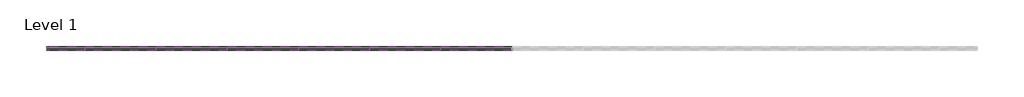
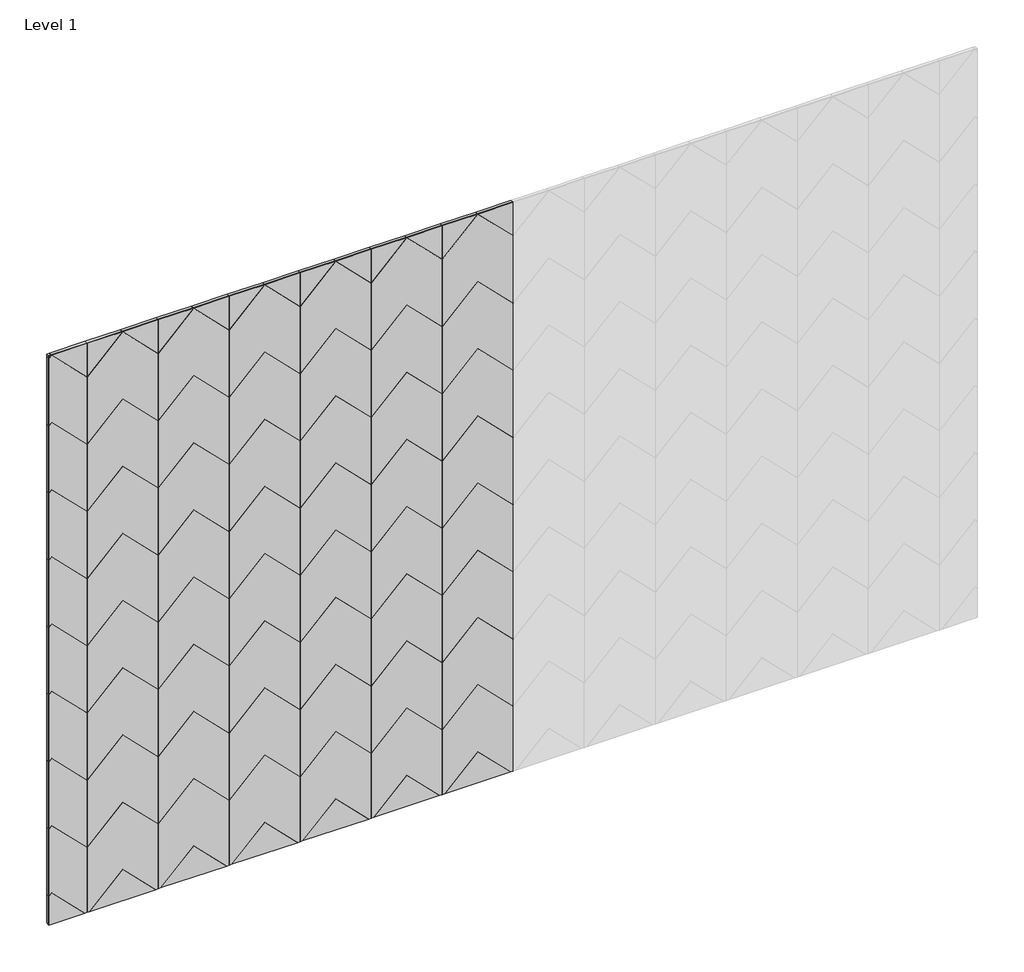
# One storey, part 1 of 2: 70 proxies.
"""IFC4 building model written with IfcOpenShell, lengths in millimetres."""

from ifc_helpers import new_model, si_unit, origin, place, context, project, spatial, transform, mapped, element, save
from components import dart_block_c7619bbd, dart_block_6891ff0b, dart_block_31c125ed, dart_block_84e837c1, dart_block_96afafd7, dart_block_226adf6a, dart_block_f4e7f8ae, dart_block_9a46b005

model = new_model("IFC4")

# Units and contexts
model_context = context("Model", 3, world=origin())
ifc_project = project(units=[si_unit("LENGTHUNIT", "METRE", prefix="MILLI")], contexts=[model_context])

# Site, building, storey
site = spatial("IfcSite", under=ifc_project)
building = spatial("IfcBuilding", under=site)
storey = spatial("IfcBuildingStorey", under=building, Name="Level 1", Elevation=0.0)

# Proxies
placement = place(None, origin())
dart_block_shape = dart_block_c7619bbd(model_context)
element("IfcBuildingElementProxy", 1, Name="FilzFelt_Dart_Block : Dart Block", ObjectType="FilzFelt_Dart_Block : Dart Block", at=placement, inside=storey, context=model_context, shape_type="MappedRepresentation", body=[
    mapped(dart_block_shape, transform((5246.9916002, -10315.1339335, 2001.5), x_axis=(1.0, 0.0, 0.0), y_axis=(0.0, 0.0, 1.0), z_axis=(0.0, -1.0, 0.0))),
])
element("IfcBuildingElementProxy", 2, Name="FilzFelt_Dart_Block : Dart Block", ObjectType="FilzFelt_Dart_Block : Dart Block", at=placement, inside=storey, context=model_context, shape_type="MappedRepresentation", body=[
    mapped(dart_block_shape, transform((5246.9916002, -10315.1339335, 1493.5), x_axis=(1.0, 0.0, 0.0), y_axis=(0.0, 0.0, 1.0), z_axis=(0.0, -1.0, 0.0))),
])
dart_block_2_shape = dart_block_6891ff0b(model_context)
element("IfcBuildingElementProxy", 3, Name="FilzFelt_Dart_Block : Dart Block", ObjectType="FilzFelt_Dart_Block : Dart Block", at=placement, inside=storey, context=model_context, shape_type="MappedRepresentation", body=[
    mapped(dart_block_2_shape, transform((5246.9916002, -10315.1339335, 3017.5), x_axis=(1.0, 0.0, 0.0), y_axis=(0.0, 0.0, 1.0), z_axis=(0.0, -1.0, 0.0))),
])
dart_block_3_shape = dart_block_31c125ed(model_context)
element("IfcBuildingElementProxy", 4, Name="FilzFelt_Dart_Block : Dart Block", ObjectType="FilzFelt_Dart_Block : Dart Block", at=placement, inside=storey, context=model_context, shape_type="MappedRepresentation", body=[
    mapped(dart_block_3_shape, transform((5500.9916002, -10315.1339335, 2509.5), x_axis=(1.0, 0.0, 0.0), y_axis=(0.0, 0.0, 1.0), z_axis=(0.0, -1.0, 0.0))),
])
element("IfcBuildingElementProxy", 5, Name="FilzFelt_Dart_Block : Dart Block", ObjectType="FilzFelt_Dart_Block : Dart Block", at=placement, inside=storey, context=model_context, shape_type="MappedRepresentation", body=[
    mapped(dart_block_3_shape, transform((5500.9916002, -10315.1339335, 1493.5), x_axis=(1.0, 0.0, 0.0), y_axis=(0.0, 0.0, 1.0), z_axis=(0.0, -1.0, 0.0))),
])
element("IfcBuildingElementProxy", 6, Name="FilzFelt_Dart_Block : Dart Block", ObjectType="FilzFelt_Dart_Block : Dart Block", at=placement, inside=storey, context=model_context, shape_type="MappedRepresentation", body=[
    mapped(dart_block_3_shape, transform((5754.9916002, -10315.1339335, 2763.5), x_axis=(1.0, 0.0, 0.0), y_axis=(0.0, 0.0, 1.0), z_axis=(0.0, -1.0, 0.0))),
])
element("IfcBuildingElementProxy", 7, Name="FilzFelt_Dart_Block : Dart Block", ObjectType="FilzFelt_Dart_Block : Dart Block", at=placement, inside=storey, context=model_context, shape_type="MappedRepresentation", body=[
    mapped(dart_block_3_shape, transform((5754.9916002, -10315.1339335, 2001.5), x_axis=(1.0, 0.0, 0.0), y_axis=(0.0, 0.0, 1.0), z_axis=(0.0, -1.0, 0.0))),
])
element("IfcBuildingElementProxy", 8, Name="FilzFelt_Dart_Block : Dart Block", ObjectType="FilzFelt_Dart_Block : Dart Block", at=placement, inside=storey, context=model_context, shape_type="MappedRepresentation", body=[
    mapped(dart_block_3_shape, transform((5754.9916002, -10315.1339335, 1239.5), x_axis=(1.0, 0.0, 0.0), y_axis=(0.0, 0.0, 1.0), z_axis=(0.0, -1.0, 0.0))),
])
element("IfcBuildingElementProxy", 9, Name="FilzFelt_Dart_Block : Dart Block", ObjectType="FilzFelt_Dart_Block : Dart Block", at=placement, inside=storey, context=model_context, shape_type="MappedRepresentation", body=[
    mapped(dart_block_3_shape, transform((6008.9916002, -10315.1339335, 2255.5), x_axis=(1.0, 0.0, 0.0), y_axis=(0.0, 0.0, 1.0), z_axis=(0.0, -1.0, 0.0))),
])
element("IfcBuildingElementProxy", 10, Name="FilzFelt_Dart_Block : Dart Block", ObjectType="FilzFelt_Dart_Block : Dart Block", at=placement, inside=storey, context=model_context, shape_type="MappedRepresentation", body=[
    mapped(dart_block_3_shape, transform((6008.9916002, -10315.1339335, 1747.5), x_axis=(1.0, 0.0, 0.0), y_axis=(0.0, 0.0, 1.0), z_axis=(0.0, -1.0, 0.0))),
])
element("IfcBuildingElementProxy", 11, Name="FilzFelt_Dart_Block : Dart Block", ObjectType="FilzFelt_Dart_Block : Dart Block", at=placement, inside=storey, context=model_context, shape_type="MappedRepresentation", body=[
    mapped(dart_block_3_shape, transform((6262.9916002, -10315.1339335, 2509.5), x_axis=(1.0, 0.0, 0.0), y_axis=(0.0, 0.0, 1.0), z_axis=(0.0, -1.0, 0.0))),
])
element("IfcBuildingElementProxy", 12, Name="FilzFelt_Dart_Block : Dart Block", ObjectType="FilzFelt_Dart_Block : Dart Block", at=placement, inside=storey, context=model_context, shape_type="MappedRepresentation", body=[
    mapped(dart_block_3_shape, transform((6262.9916002, -10315.1339335, 1747.5), x_axis=(1.0, 0.0, 0.0), y_axis=(0.0, 0.0, 1.0), z_axis=(0.0, -1.0, 0.0))),
])
element("IfcBuildingElementProxy", 13, Name="FilzFelt_Dart_Block : Dart Block", ObjectType="FilzFelt_Dart_Block : Dart Block", at=placement, inside=storey, context=model_context, shape_type="MappedRepresentation", body=[
    mapped(dart_block_3_shape, transform((6262.9916002, -10315.1339335, 1239.5), x_axis=(1.0, 0.0, 0.0), y_axis=(0.0, 0.0, 1.0), z_axis=(0.0, -1.0, 0.0))),
])
element("IfcBuildingElementProxy", 14, Name="FilzFelt_Dart_Block : Dart Block", ObjectType="FilzFelt_Dart_Block : Dart Block", at=placement, inside=storey, context=model_context, shape_type="MappedRepresentation", body=[
    mapped(dart_block_3_shape, transform((6516.9916002, -10315.1339335, 2763.5), x_axis=(1.0, 0.0, 0.0), y_axis=(0.0, 0.0, 1.0), z_axis=(0.0, -1.0, 0.0))),
])
element("IfcBuildingElementProxy", 15, Name="FilzFelt_Dart_Block : Dart Block", ObjectType="FilzFelt_Dart_Block : Dart Block", at=placement, inside=storey, context=model_context, shape_type="MappedRepresentation", body=[
    mapped(dart_block_3_shape, transform((6516.9916002, -10315.1339335, 2255.5), x_axis=(1.0, 0.0, 0.0), y_axis=(0.0, 0.0, 1.0), z_axis=(0.0, -1.0, 0.0))),
])
element("IfcBuildingElementProxy", 16, Name="FilzFelt_Dart_Block : Dart Block", ObjectType="FilzFelt_Dart_Block : Dart Block", at=placement, inside=storey, context=model_context, shape_type="MappedRepresentation", body=[
    mapped(dart_block_3_shape, transform((6516.9916002, -10315.1339335, 1493.5), x_axis=(1.0, 0.0, 0.0), y_axis=(0.0, 0.0, 1.0), z_axis=(0.0, -1.0, 0.0))),
])
element("IfcBuildingElementProxy", 17, Name="FilzFelt_Dart_Block : Dart Block", ObjectType="FilzFelt_Dart_Block : Dart Block", at=placement, inside=storey, context=model_context, shape_type="MappedRepresentation", body=[
    mapped(dart_block_3_shape, transform((6770.9916002, -10315.1339335, 2001.5), x_axis=(1.0, 0.0, 0.0), y_axis=(0.0, 0.0, 1.0), z_axis=(0.0, -1.0, 0.0))),
])
element("IfcBuildingElementProxy", 18, Name="FilzFelt_Dart_Block : Dart Block", ObjectType="FilzFelt_Dart_Block : Dart Block", at=placement, inside=storey, context=model_context, shape_type="MappedRepresentation", body=[
    mapped(dart_block_3_shape, transform((6770.9916002, -10315.1339335, 1239.5), x_axis=(1.0, 0.0, 0.0), y_axis=(0.0, 0.0, 1.0), z_axis=(0.0, -1.0, 0.0))),
])
dart_block_4_shape = dart_block_84e837c1(model_context)
element("IfcBuildingElementProxy", 19, Name="FilzFelt_Dart_Block : Dart Block", ObjectType="FilzFelt_Dart_Block : Dart Block", at=placement, inside=storey, context=model_context, shape_type="MappedRepresentation", body=[
    mapped(dart_block_4_shape, transform((6770.9916002, -10315.1339335, 3017.5), x_axis=(1.0, 0.0, 0.0), y_axis=(0.0, 0.0, 1.0), z_axis=(0.0, -1.0, 0.0))),
])
dart_block_5_shape = dart_block_96afafd7(model_context)
element("IfcBuildingElementProxy", 20, Name="FilzFelt_Dart_Block : Dart Block", ObjectType="FilzFelt_Dart_Block : Dart Block", at=placement, inside=storey, context=model_context, shape_type="MappedRepresentation", body=[
    mapped(dart_block_5_shape, transform((6008.9916002, -10315.1339335, 985.5), x_axis=(1.0, 0.0, 0.0), y_axis=(0.0, 0.0, 1.0), z_axis=(0.0, -1.0, 0.0))),
])
element("IfcBuildingElementProxy", 21, Name="FilzFelt_Dart_Block : Dart Block", ObjectType="FilzFelt_Dart_Block : Dart Block", at=placement, inside=storey, context=model_context, shape_type="MappedRepresentation", body=[
    mapped(dart_block_5_shape, transform((5500.9916002, -10315.1339335, 985.5), x_axis=(1.0, 0.0, 0.0), y_axis=(0.0, 0.0, 1.0), z_axis=(0.0, -1.0, 0.0))),
])
dart_block_6_shape = dart_block_226adf6a(model_context)
element("IfcBuildingElementProxy", 22, Name="FilzFelt_Dart_Block : Dart Block", ObjectType="FilzFelt_Dart_Block : Dart Block", at=placement, inside=storey, context=model_context, shape_type="MappedRepresentation", body=[
    mapped(dart_block_6_shape, transform((6770.9916002, -10315.1339335, 731.5), x_axis=(1.0, 0.0, 0.0), y_axis=(0.0, 0.0, 1.0), z_axis=(0.0, -1.0, 0.0))),
])
element("IfcBuildingElementProxy", 23, Name="FilzFelt_Dart_Block : Dart Block", ObjectType="FilzFelt_Dart_Block : Dart Block", at=placement, inside=storey, context=model_context, shape_type="MappedRepresentation", body=[
    mapped(dart_block_6_shape, transform((6516.9916002, -10315.1339335, 731.5), x_axis=(1.0, 0.0, 0.0), y_axis=(0.0, 0.0, 1.0), z_axis=(0.0, -1.0, 0.0))),
])
element("IfcBuildingElementProxy", 24, Name="FilzFelt_Dart_Block : Dart Block", ObjectType="FilzFelt_Dart_Block : Dart Block", at=placement, inside=storey, context=model_context, shape_type="MappedRepresentation", body=[
    mapped(dart_block_6_shape, transform((5754.9916002, -10315.1339335, 731.5), x_axis=(1.0, 0.0, 0.0), y_axis=(0.0, 0.0, 1.0), z_axis=(0.0, -1.0, 0.0))),
])
dart_block_7_shape = dart_block_f4e7f8ae(model_context)
element("IfcBuildingElementProxy", 25, Name="FilzFelt_Dart_Block : Dart Block", ObjectType="FilzFelt_Dart_Block : Dart Block", at=placement, inside=storey, context=model_context, shape_type="MappedRepresentation", body=[
    mapped(dart_block_7_shape, transform((5246.9916002, -10315.1339335, 731.5), x_axis=(1.0, 0.0, 0.0), y_axis=(0.0, 0.0, 1.0), z_axis=(0.0, -1.0, 0.0))),
])
element("IfcBuildingElementProxy", 26, Name="FilzFelt_Dart_Block : Dart Block", ObjectType="FilzFelt_Dart_Block : Dart Block", at=placement, inside=storey, context=model_context, shape_type="MappedRepresentation", body=[
    mapped(dart_block_shape, transform((5246.9916002, -10315.1339335, 2763.5), x_axis=(1.0, 0.0, 0.0), y_axis=(0.0, 0.0, 1.0), z_axis=(0.0, -1.0, 0.0))),
])
element("IfcBuildingElementProxy", 27, Name="FilzFelt_Dart_Block : Dart Block", ObjectType="FilzFelt_Dart_Block : Dart Block", at=placement, inside=storey, context=model_context, shape_type="MappedRepresentation", body=[
    mapped(dart_block_shape, transform((5246.9916002, -10315.1339335, 2255.5), x_axis=(1.0, 0.0, 0.0), y_axis=(0.0, 0.0, 1.0), z_axis=(0.0, -1.0, 0.0))),
])
element("IfcBuildingElementProxy", 28, Name="FilzFelt_Dart_Block : Dart Block", ObjectType="FilzFelt_Dart_Block : Dart Block", at=placement, inside=storey, context=model_context, shape_type="MappedRepresentation", body=[
    mapped(dart_block_3_shape, transform((5500.9916002, -10315.1339335, 2255.5), x_axis=(1.0, 0.0, 0.0), y_axis=(0.0, 0.0, 1.0), z_axis=(0.0, -1.0, 0.0))),
])
element("IfcBuildingElementProxy", 29, Name="FilzFelt_Dart_Block : Dart Block", ObjectType="FilzFelt_Dart_Block : Dart Block", at=placement, inside=storey, context=model_context, shape_type="MappedRepresentation", body=[
    mapped(dart_block_3_shape, transform((5500.9916002, -10315.1339335, 1747.5), x_axis=(1.0, 0.0, 0.0), y_axis=(0.0, 0.0, 1.0), z_axis=(0.0, -1.0, 0.0))),
])
element("IfcBuildingElementProxy", 30, Name="FilzFelt_Dart_Block : Dart Block", ObjectType="FilzFelt_Dart_Block : Dart Block", at=placement, inside=storey, context=model_context, shape_type="MappedRepresentation", body=[
    mapped(dart_block_3_shape, transform((5500.9916002, -10315.1339335, 1239.5), x_axis=(1.0, 0.0, 0.0), y_axis=(0.0, 0.0, 1.0), z_axis=(0.0, -1.0, 0.0))),
])
element("IfcBuildingElementProxy", 31, Name="FilzFelt_Dart_Block : Dart Block", ObjectType="FilzFelt_Dart_Block : Dart Block", at=placement, inside=storey, context=model_context, shape_type="MappedRepresentation", body=[
    mapped(dart_block_3_shape, transform((5754.9916002, -10315.1339335, 2509.5), x_axis=(1.0, 0.0, 0.0), y_axis=(0.0, 0.0, 1.0), z_axis=(0.0, -1.0, 0.0))),
])
element("IfcBuildingElementProxy", 32, Name="FilzFelt_Dart_Block : Dart Block", ObjectType="FilzFelt_Dart_Block : Dart Block", at=placement, inside=storey, context=model_context, shape_type="MappedRepresentation", body=[
    mapped(dart_block_3_shape, transform((5754.9916002, -10315.1339335, 1493.5), x_axis=(1.0, 0.0, 0.0), y_axis=(0.0, 0.0, 1.0), z_axis=(0.0, -1.0, 0.0))),
])
element("IfcBuildingElementProxy", 33, Name="FilzFelt_Dart_Block : Dart Block", ObjectType="FilzFelt_Dart_Block : Dart Block", at=placement, inside=storey, context=model_context, shape_type="MappedRepresentation", body=[
    mapped(dart_block_3_shape, transform((6008.9916002, -10315.1339335, 2763.5), x_axis=(1.0, 0.0, 0.0), y_axis=(0.0, 0.0, 1.0), z_axis=(0.0, -1.0, 0.0))),
])
element("IfcBuildingElementProxy", 34, Name="FilzFelt_Dart_Block : Dart Block", ObjectType="FilzFelt_Dart_Block : Dart Block", at=placement, inside=storey, context=model_context, shape_type="MappedRepresentation", body=[
    mapped(dart_block_3_shape, transform((6008.9916002, -10315.1339335, 2001.5), x_axis=(1.0, 0.0, 0.0), y_axis=(0.0, 0.0, 1.0), z_axis=(0.0, -1.0, 0.0))),
])
element("IfcBuildingElementProxy", 35, Name="FilzFelt_Dart_Block : Dart Block", ObjectType="FilzFelt_Dart_Block : Dart Block", at=placement, inside=storey, context=model_context, shape_type="MappedRepresentation", body=[
    mapped(dart_block_3_shape, transform((6008.9916002, -10315.1339335, 1239.5), x_axis=(1.0, 0.0, 0.0), y_axis=(0.0, 0.0, 1.0), z_axis=(0.0, -1.0, 0.0))),
])
element("IfcBuildingElementProxy", 36, Name="FilzFelt_Dart_Block : Dart Block", ObjectType="FilzFelt_Dart_Block : Dart Block", at=placement, inside=storey, context=model_context, shape_type="MappedRepresentation", body=[
    mapped(dart_block_3_shape, transform((6262.9916002, -10315.1339335, 2255.5), x_axis=(1.0, 0.0, 0.0), y_axis=(0.0, 0.0, 1.0), z_axis=(0.0, -1.0, 0.0))),
])
element("IfcBuildingElementProxy", 37, Name="FilzFelt_Dart_Block : Dart Block", ObjectType="FilzFelt_Dart_Block : Dart Block", at=placement, inside=storey, context=model_context, shape_type="MappedRepresentation", body=[
    mapped(dart_block_3_shape, transform((6262.9916002, -10315.1339335, 1493.5), x_axis=(1.0, 0.0, 0.0), y_axis=(0.0, 0.0, 1.0), z_axis=(0.0, -1.0, 0.0))),
])
element("IfcBuildingElementProxy", 38, Name="FilzFelt_Dart_Block : Dart Block", ObjectType="FilzFelt_Dart_Block : Dart Block", at=placement, inside=storey, context=model_context, shape_type="MappedRepresentation", body=[
    mapped(dart_block_3_shape, transform((6516.9916002, -10315.1339335, 2509.5), x_axis=(1.0, 0.0, 0.0), y_axis=(0.0, 0.0, 1.0), z_axis=(0.0, -1.0, 0.0))),
])
element("IfcBuildingElementProxy", 39, Name="FilzFelt_Dart_Block : Dart Block", ObjectType="FilzFelt_Dart_Block : Dart Block", at=placement, inside=storey, context=model_context, shape_type="MappedRepresentation", body=[
    mapped(dart_block_3_shape, transform((6516.9916002, -10315.1339335, 2001.5), x_axis=(1.0, 0.0, 0.0), y_axis=(0.0, 0.0, 1.0), z_axis=(0.0, -1.0, 0.0))),
])
element("IfcBuildingElementProxy", 40, Name="FilzFelt_Dart_Block : Dart Block", ObjectType="FilzFelt_Dart_Block : Dart Block", at=placement, inside=storey, context=model_context, shape_type="MappedRepresentation", body=[
    mapped(dart_block_3_shape, transform((6516.9916002, -10315.1339335, 1239.5), x_axis=(1.0, 0.0, 0.0), y_axis=(0.0, 0.0, 1.0), z_axis=(0.0, -1.0, 0.0))),
])
element("IfcBuildingElementProxy", 41, Name="FilzFelt_Dart_Block : Dart Block", ObjectType="FilzFelt_Dart_Block : Dart Block", at=placement, inside=storey, context=model_context, shape_type="MappedRepresentation", body=[
    mapped(dart_block_3_shape, transform((6770.9916002, -10315.1339335, 2509.5), x_axis=(1.0, 0.0, 0.0), y_axis=(0.0, 0.0, 1.0), z_axis=(0.0, -1.0, 0.0))),
])
element("IfcBuildingElementProxy", 42, Name="FilzFelt_Dart_Block : Dart Block", ObjectType="FilzFelt_Dart_Block : Dart Block", at=placement, inside=storey, context=model_context, shape_type="MappedRepresentation", body=[
    mapped(dart_block_3_shape, transform((6770.9916002, -10315.1339335, 1747.5), x_axis=(1.0, 0.0, 0.0), y_axis=(0.0, 0.0, 1.0), z_axis=(0.0, -1.0, 0.0))),
])
element("IfcBuildingElementProxy", 43, Name="FilzFelt_Dart_Block : Dart Block", ObjectType="FilzFelt_Dart_Block : Dart Block", at=placement, inside=storey, context=model_context, shape_type="MappedRepresentation", body=[
    mapped(dart_block_4_shape, transform((5500.9916002, -10315.1339335, 3017.5), x_axis=(1.0, 0.0, 0.0), y_axis=(0.0, 0.0, 1.0), z_axis=(0.0, -1.0, 0.0))),
])
element("IfcBuildingElementProxy", 44, Name="FilzFelt_Dart_Block : Dart Block", ObjectType="FilzFelt_Dart_Block : Dart Block", at=placement, inside=storey, context=model_context, shape_type="MappedRepresentation", body=[
    mapped(dart_block_4_shape, transform((5754.9916002, -10315.1339335, 3017.5), x_axis=(1.0, 0.0, 0.0), y_axis=(0.0, 0.0, 1.0), z_axis=(0.0, -1.0, 0.0))),
])
element("IfcBuildingElementProxy", 45, Name="FilzFelt_Dart_Block : Dart Block", ObjectType="FilzFelt_Dart_Block : Dart Block", at=placement, inside=storey, context=model_context, shape_type="MappedRepresentation", body=[
    mapped(dart_block_4_shape, transform((6262.9916002, -10315.1339335, 3017.5), x_axis=(1.0, 0.0, 0.0), y_axis=(0.0, 0.0, 1.0), z_axis=(0.0, -1.0, 0.0))),
])
element("IfcBuildingElementProxy", 46, Name="FilzFelt_Dart_Block : Dart Block", ObjectType="FilzFelt_Dart_Block : Dart Block", at=placement, inside=storey, context=model_context, shape_type="MappedRepresentation", body=[
    mapped(dart_block_4_shape, transform((6516.9916002, -10315.1339335, 3017.5), x_axis=(1.0, 0.0, 0.0), y_axis=(0.0, 0.0, 1.0), z_axis=(0.0, -1.0, 0.0))),
])
element("IfcBuildingElementProxy", 47, Name="FilzFelt_Dart_Block : Dart Block", ObjectType="FilzFelt_Dart_Block : Dart Block", at=placement, inside=storey, context=model_context, shape_type="MappedRepresentation", body=[
    mapped(dart_block_5_shape, transform((6770.9916002, -10315.1339335, 985.5), x_axis=(1.0, 0.0, 0.0), y_axis=(0.0, 0.0, 1.0), z_axis=(0.0, -1.0, 0.0))),
])
element("IfcBuildingElementProxy", 48, Name="FilzFelt_Dart_Block : Dart Block", ObjectType="FilzFelt_Dart_Block : Dart Block", at=placement, inside=storey, context=model_context, shape_type="MappedRepresentation", body=[
    mapped(dart_block_5_shape, transform((6262.9916002, -10315.1339335, 985.5), x_axis=(1.0, 0.0, 0.0), y_axis=(0.0, 0.0, 1.0), z_axis=(0.0, -1.0, 0.0))),
])
element("IfcBuildingElementProxy", 49, Name="FilzFelt_Dart_Block : Dart Block", ObjectType="FilzFelt_Dart_Block : Dart Block", at=placement, inside=storey, context=model_context, shape_type="MappedRepresentation", body=[
    mapped(dart_block_6_shape, transform((6008.9916002, -10315.1339335, 731.5), x_axis=(1.0, 0.0, 0.0), y_axis=(0.0, 0.0, 1.0), z_axis=(0.0, -1.0, 0.0))),
])
element("IfcBuildingElementProxy", 50, Name="FilzFelt_Dart_Block : Dart Block", ObjectType="FilzFelt_Dart_Block : Dart Block", at=placement, inside=storey, context=model_context, shape_type="MappedRepresentation", body=[
    mapped(dart_block_6_shape, transform((5500.9916002, -10315.1339335, 731.5), x_axis=(1.0, 0.0, 0.0), y_axis=(0.0, 0.0, 1.0), z_axis=(0.0, -1.0, 0.0))),
])
dart_block_8_shape = dart_block_9a46b005(model_context)
element("IfcBuildingElementProxy", 51, Name="FilzFelt_Dart_Block : Dart Block", ObjectType="FilzFelt_Dart_Block : Dart Block", at=placement, inside=storey, context=model_context, shape_type="MappedRepresentation", body=[
    mapped(dart_block_8_shape, transform((5246.9916002, -10315.1339335, 985.5), x_axis=(1.0, 0.0, 0.0), y_axis=(0.0, 0.0, 1.0), z_axis=(0.0, -1.0, 0.0))),
])
element("IfcBuildingElementProxy", 52, Name="FilzFelt_Dart_Block : Dart Block", ObjectType="FilzFelt_Dart_Block : Dart Block", at=placement, inside=storey, context=model_context, shape_type="MappedRepresentation", body=[
    mapped(dart_block_shape, transform((5246.9916002, -10315.1339335, 2509.5), x_axis=(1.0, 0.0, 0.0), y_axis=(0.0, 0.0, 1.0), z_axis=(0.0, -1.0, 0.0))),
])
element("IfcBuildingElementProxy", 53, Name="FilzFelt_Dart_Block : Dart Block", ObjectType="FilzFelt_Dart_Block : Dart Block", at=placement, inside=storey, context=model_context, shape_type="MappedRepresentation", body=[
    mapped(dart_block_shape, transform((5246.9916002, -10315.1339335, 1747.5), x_axis=(1.0, 0.0, 0.0), y_axis=(0.0, 0.0, 1.0), z_axis=(0.0, -1.0, 0.0))),
])
element("IfcBuildingElementProxy", 54, Name="FilzFelt_Dart_Block : Dart Block", ObjectType="FilzFelt_Dart_Block : Dart Block", at=placement, inside=storey, context=model_context, shape_type="MappedRepresentation", body=[
    mapped(dart_block_shape, transform((5246.9916002, -10315.1339335, 1239.5), x_axis=(1.0, 0.0, 0.0), y_axis=(0.0, 0.0, 1.0), z_axis=(0.0, -1.0, 0.0))),
])
element("IfcBuildingElementProxy", 55, Name="FilzFelt_Dart_Block : Dart Block", ObjectType="FilzFelt_Dart_Block : Dart Block", at=placement, inside=storey, context=model_context, shape_type="MappedRepresentation", body=[
    mapped(dart_block_3_shape, transform((5500.9916002, -10315.1339335, 2763.5), x_axis=(1.0, 0.0, 0.0), y_axis=(0.0, 0.0, 1.0), z_axis=(0.0, -1.0, 0.0))),
])
element("IfcBuildingElementProxy", 56, Name="FilzFelt_Dart_Block : Dart Block", ObjectType="FilzFelt_Dart_Block : Dart Block", at=placement, inside=storey, context=model_context, shape_type="MappedRepresentation", body=[
    mapped(dart_block_3_shape, transform((5500.9916002, -10315.1339335, 2001.5), x_axis=(1.0, 0.0, 0.0), y_axis=(0.0, 0.0, 1.0), z_axis=(0.0, -1.0, 0.0))),
])
element("IfcBuildingElementProxy", 57, Name="FilzFelt_Dart_Block : Dart Block", ObjectType="FilzFelt_Dart_Block : Dart Block", at=placement, inside=storey, context=model_context, shape_type="MappedRepresentation", body=[
    mapped(dart_block_3_shape, transform((5754.9916002, -10315.1339335, 2255.5), x_axis=(1.0, 0.0, 0.0), y_axis=(0.0, 0.0, 1.0), z_axis=(0.0, -1.0, 0.0))),
])
element("IfcBuildingElementProxy", 58, Name="FilzFelt_Dart_Block : Dart Block", ObjectType="FilzFelt_Dart_Block : Dart Block", at=placement, inside=storey, context=model_context, shape_type="MappedRepresentation", body=[
    mapped(dart_block_3_shape, transform((5754.9916002, -10315.1339335, 1747.5), x_axis=(1.0, 0.0, 0.0), y_axis=(0.0, 0.0, 1.0), z_axis=(0.0, -1.0, 0.0))),
])
element("IfcBuildingElementProxy", 59, Name="FilzFelt_Dart_Block : Dart Block", ObjectType="FilzFelt_Dart_Block : Dart Block", at=placement, inside=storey, context=model_context, shape_type="MappedRepresentation", body=[
    mapped(dart_block_3_shape, transform((6008.9916002, -10315.1339335, 2509.5), x_axis=(1.0, 0.0, 0.0), y_axis=(0.0, 0.0, 1.0), z_axis=(0.0, -1.0, 0.0))),
])
element("IfcBuildingElementProxy", 60, Name="FilzFelt_Dart_Block : Dart Block", ObjectType="FilzFelt_Dart_Block : Dart Block", at=placement, inside=storey, context=model_context, shape_type="MappedRepresentation", body=[
    mapped(dart_block_3_shape, transform((6008.9916002, -10315.1339335, 1493.5), x_axis=(1.0, 0.0, 0.0), y_axis=(0.0, 0.0, 1.0), z_axis=(0.0, -1.0, 0.0))),
])
element("IfcBuildingElementProxy", 61, Name="FilzFelt_Dart_Block : Dart Block", ObjectType="FilzFelt_Dart_Block : Dart Block", at=placement, inside=storey, context=model_context, shape_type="MappedRepresentation", body=[
    mapped(dart_block_3_shape, transform((6262.9916002, -10315.1339335, 2763.5), x_axis=(1.0, 0.0, 0.0), y_axis=(0.0, 0.0, 1.0), z_axis=(0.0, -1.0, 0.0))),
])
element("IfcBuildingElementProxy", 62, Name="FilzFelt_Dart_Block : Dart Block", ObjectType="FilzFelt_Dart_Block : Dart Block", at=placement, inside=storey, context=model_context, shape_type="MappedRepresentation", body=[
    mapped(dart_block_3_shape, transform((6262.9916002, -10315.1339335, 2001.5), x_axis=(1.0, 0.0, 0.0), y_axis=(0.0, 0.0, 1.0), z_axis=(0.0, -1.0, 0.0))),
])
element("IfcBuildingElementProxy", 63, Name="FilzFelt_Dart_Block : Dart Block", ObjectType="FilzFelt_Dart_Block : Dart Block", at=placement, inside=storey, context=model_context, shape_type="MappedRepresentation", body=[
    mapped(dart_block_3_shape, transform((6516.9916002, -10315.1339335, 1747.5), x_axis=(1.0, 0.0, 0.0), y_axis=(0.0, 0.0, 1.0), z_axis=(0.0, -1.0, 0.0))),
])
element("IfcBuildingElementProxy", 64, Name="FilzFelt_Dart_Block : Dart Block", ObjectType="FilzFelt_Dart_Block : Dart Block", at=placement, inside=storey, context=model_context, shape_type="MappedRepresentation", body=[
    mapped(dart_block_3_shape, transform((6770.9916002, -10315.1339335, 2763.5), x_axis=(1.0, 0.0, 0.0), y_axis=(0.0, 0.0, 1.0), z_axis=(0.0, -1.0, 0.0))),
])
element("IfcBuildingElementProxy", 65, Name="FilzFelt_Dart_Block : Dart Block", ObjectType="FilzFelt_Dart_Block : Dart Block", at=placement, inside=storey, context=model_context, shape_type="MappedRepresentation", body=[
    mapped(dart_block_3_shape, transform((6770.9916002, -10315.1339335, 2255.5), x_axis=(1.0, 0.0, 0.0), y_axis=(0.0, 0.0, 1.0), z_axis=(0.0, -1.0, 0.0))),
])
element("IfcBuildingElementProxy", 66, Name="FilzFelt_Dart_Block : Dart Block", ObjectType="FilzFelt_Dart_Block : Dart Block", at=placement, inside=storey, context=model_context, shape_type="MappedRepresentation", body=[
    mapped(dart_block_3_shape, transform((6770.9916002, -10315.1339335, 1493.5), x_axis=(1.0, 0.0, 0.0), y_axis=(0.0, 0.0, 1.0), z_axis=(0.0, -1.0, 0.0))),
])
element("IfcBuildingElementProxy", 67, Name="FilzFelt_Dart_Block : Dart Block", ObjectType="FilzFelt_Dart_Block : Dart Block", at=placement, inside=storey, context=model_context, shape_type="MappedRepresentation", body=[
    mapped(dart_block_4_shape, transform((6008.9916002, -10315.1339335, 3017.5), x_axis=(1.0, 0.0, 0.0), y_axis=(0.0, 0.0, 1.0), z_axis=(0.0, -1.0, 0.0))),
])
element("IfcBuildingElementProxy", 68, Name="FilzFelt_Dart_Block : Dart Block", ObjectType="FilzFelt_Dart_Block : Dart Block", at=placement, inside=storey, context=model_context, shape_type="MappedRepresentation", body=[
    mapped(dart_block_5_shape, transform((6516.9916002, -10315.1339335, 985.5), x_axis=(1.0, 0.0, 0.0), y_axis=(0.0, 0.0, 1.0), z_axis=(0.0, -1.0, 0.0))),
])
element("IfcBuildingElementProxy", 69, Name="FilzFelt_Dart_Block : Dart Block", ObjectType="FilzFelt_Dart_Block : Dart Block", at=placement, inside=storey, context=model_context, shape_type="MappedRepresentation", body=[
    mapped(dart_block_5_shape, transform((5754.9916002, -10315.1339335, 985.5), x_axis=(1.0, 0.0, 0.0), y_axis=(0.0, 0.0, 1.0), z_axis=(0.0, -1.0, 0.0))),
])
element("IfcBuildingElementProxy", 70, Name="FilzFelt_Dart_Block : Dart Block", ObjectType="FilzFelt_Dart_Block : Dart Block", at=placement, inside=storey, context=model_context, shape_type="MappedRepresentation", body=[
    mapped(dart_block_6_shape, transform((6262.9916002, -10315.1339335, 731.5), x_axis=(1.0, 0.0, 0.0), y_axis=(0.0, 0.0, 1.0), z_axis=(0.0, -1.0, 0.0))),
])

save(model, "model.ifc")
